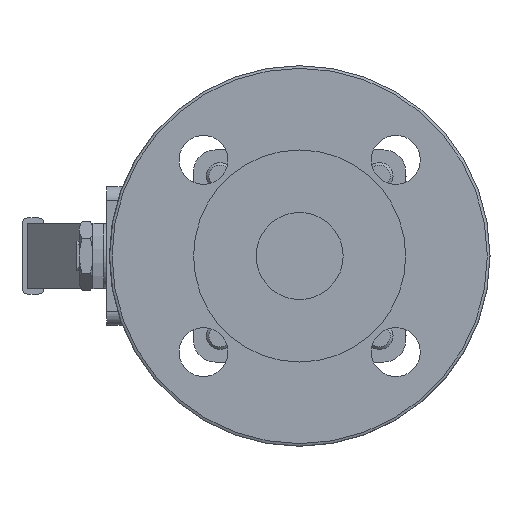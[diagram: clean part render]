
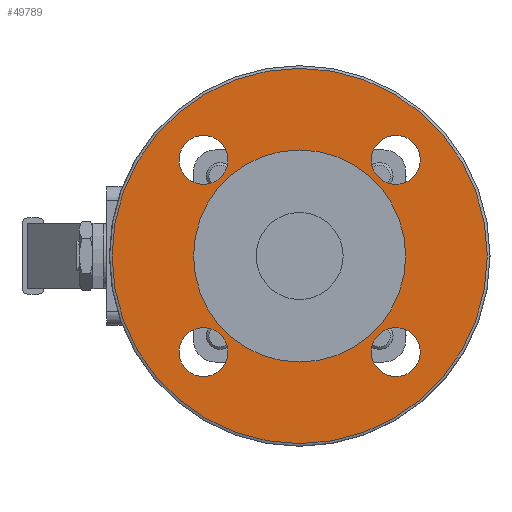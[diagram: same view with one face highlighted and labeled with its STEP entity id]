
A CAD part, left-side view. The second image highlights one B-rep face of the part: STEP entity #49789.
In plain terms, the highlighted planar face has unit normal (-1, 0, 0).
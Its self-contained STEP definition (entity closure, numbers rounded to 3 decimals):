
#49348=CARTESIAN_POINT('',(-55.4,-26.355,-35.355));
#49349=VERTEX_POINT('',#49348);
#49350=CARTESIAN_POINT('',(-55.4,-35.355,-35.355));
#49351=DIRECTION('',(1.0,0.0,0.0));
#49352=DIRECTION('',(0.0,1.0,0.0));
#49353=AXIS2_PLACEMENT_3D('',#49350,#49351,#49352);
#49354=CIRCLE('',#49353,9.0);
#49355=EDGE_CURVE('',#49349,#49349,#49354,.T.);
#49376=CARTESIAN_POINT('',(-55.4,-35.355,26.355));
#49377=VERTEX_POINT('',#49376);
#49378=CARTESIAN_POINT('',(-55.4,-35.355,35.355));
#49379=DIRECTION('',(1.0,0.0,0.0));
#49380=DIRECTION('',(0.0,0.0,-1.0));
#49381=AXIS2_PLACEMENT_3D('',#49378,#49379,#49380);
#49382=CIRCLE('',#49381,9.0);
#49383=EDGE_CURVE('',#49377,#49377,#49382,.T.);
#49404=CARTESIAN_POINT('',(-55.4,26.355,35.355));
#49405=VERTEX_POINT('',#49404);
#49406=CARTESIAN_POINT('',(-55.4,35.355,35.355));
#49407=DIRECTION('',(1.0,0.0,0.0));
#49408=DIRECTION('',(0.0,-1.0,0.0));
#49409=AXIS2_PLACEMENT_3D('',#49406,#49407,#49408);
#49410=CIRCLE('',#49409,9.0);
#49411=EDGE_CURVE('',#49405,#49405,#49410,.T.);
#49432=CARTESIAN_POINT('',(-55.4,35.355,-26.355));
#49433=VERTEX_POINT('',#49432);
#49434=CARTESIAN_POINT('',(-55.4,35.355,-35.355));
#49435=DIRECTION('',(1.0,0.0,0.0));
#49436=DIRECTION('',(0.0,0.0,1.0));
#49437=AXIS2_PLACEMENT_3D('',#49434,#49435,#49436);
#49438=CIRCLE('',#49437,9.0);
#49439=EDGE_CURVE('',#49433,#49433,#49438,.T.);
#49715=CARTESIAN_POINT('',(-55.4,69.0,0.0));
#49716=VERTEX_POINT('',#49715);
#49717=CARTESIAN_POINT('',(-55.4,0.,0.0));
#49718=DIRECTION('',(1.0,0.0,0.0));
#49719=DIRECTION('',(0.0,-1.0,0.0));
#49720=AXIS2_PLACEMENT_3D('',#49717,#49718,#49719);
#49721=CIRCLE('',#49720,69.);
#49722=EDGE_CURVE('',#49716,#49716,#49721,.T.);
#49758=CARTESIAN_POINT('',(-55.4,54.5,0.0));
#49759=DIRECTION('',(-1.0,0.0,0.0));
#49760=DIRECTION('',(0.0,0.0,1.0));
#49761=AXIS2_PLACEMENT_3D('',#49758,#49759,#49760);
#49762=PLANE('',#49761);
#49763=ORIENTED_EDGE('',*,*,#49722,.F.);
#49764=EDGE_LOOP('',(#49763));
#49765=FACE_OUTER_BOUND('',#49764,.T.);
#49766=ORIENTED_EDGE('',*,*,#49355,.T.);
#49767=EDGE_LOOP('',(#49766));
#49768=FACE_BOUND('',#49767,.T.);
#49769=ORIENTED_EDGE('',*,*,#49383,.T.);
#49770=EDGE_LOOP('',(#49769));
#49771=FACE_BOUND('',#49770,.T.);
#49772=ORIENTED_EDGE('',*,*,#49411,.T.);
#49773=EDGE_LOOP('',(#49772));
#49774=FACE_BOUND('',#49773,.T.);
#49775=ORIENTED_EDGE('',*,*,#49439,.T.);
#49776=EDGE_LOOP('',(#49775));
#49777=FACE_BOUND('',#49776,.T.);
#49778=CARTESIAN_POINT('',(-55.4,39.,0.0));
#49779=VERTEX_POINT('',#49778);
#49780=CARTESIAN_POINT('',(-55.4,0.,0.0));
#49781=DIRECTION('',(1.0,0.0,0.0));
#49782=DIRECTION('',(0.0,1.0,0.0));
#49783=AXIS2_PLACEMENT_3D('',#49780,#49781,#49782);
#49784=CIRCLE('',#49783,39.0);
#49785=EDGE_CURVE('',#49779,#49779,#49784,.T.);
#49786=ORIENTED_EDGE('',*,*,#49785,.T.);
#49787=EDGE_LOOP('',(#49786));
#49788=FACE_BOUND('',#49787,.T.);
#49789=ADVANCED_FACE('',(#49765,#49768,#49771,#49774,#49777,#49788),#49762,.T.);
